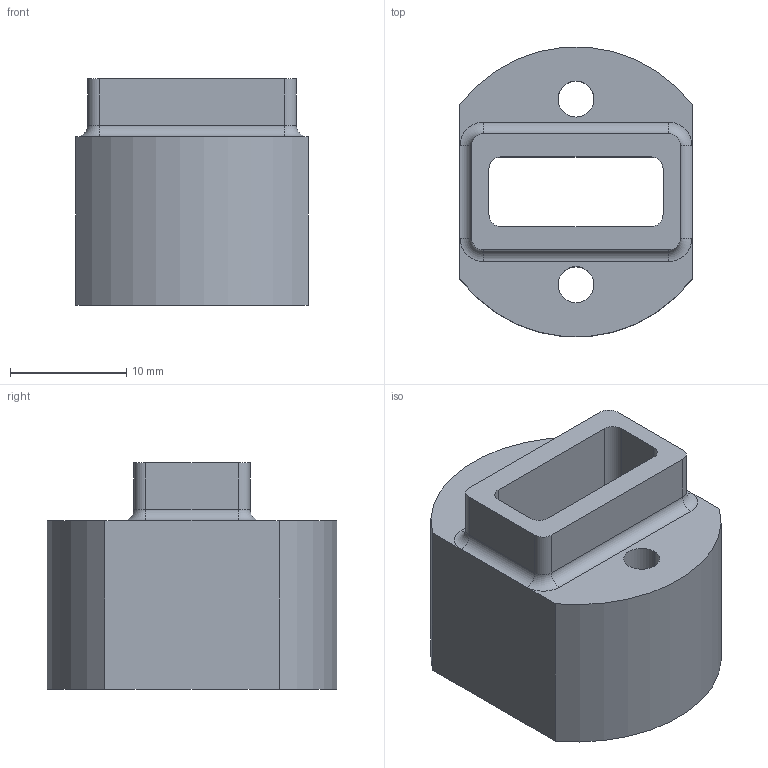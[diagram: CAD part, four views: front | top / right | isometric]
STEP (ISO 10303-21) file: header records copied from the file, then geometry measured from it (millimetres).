
FILE_DESCRIPTION (( 'STEP AP214' ), '1' );
FILE_NAME ('hip_adapter.STEP', '2020-10-14T11:55:57', ( '' ), ( '' ), 'SwSTEP 2.0', 'SolidWorks 2017', '' );
FILE_SCHEMA (( 'AUTOMOTIVE_DESIGN' ));
Length unit declared in the file: millimetre
Products named in the file (1): hip_adapter
Bounding box: 20 x 24.91 x 19.5 mm (x, y, z)
Volume: 4905.3 mm3; surface area: 3130.8 mm2
Topology: 1 solids, 1 shells, 58 faces, 144 edges, 88 vertices
Faces by surface type: cylinder 26, plane 20, torus 8, bspline 4
Entity records: 1830 total; most frequent: CARTESIAN_POINT 379, DIRECTION 314, ORIENTED_EDGE 288, EDGE_CURVE 144, AXIS2_PLACEMENT_3D 119, VERTEX_POINT 88, VECTOR 76, LINE 76
